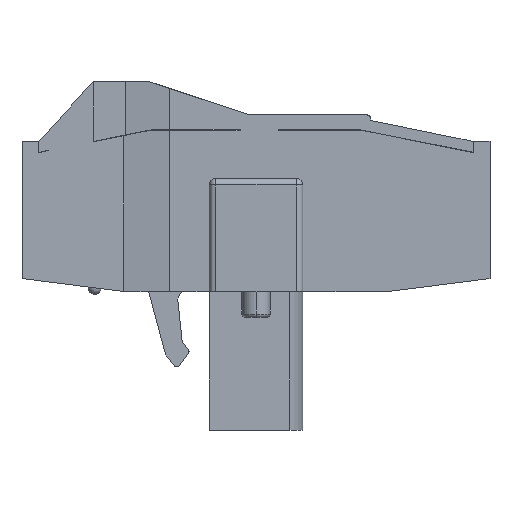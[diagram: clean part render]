
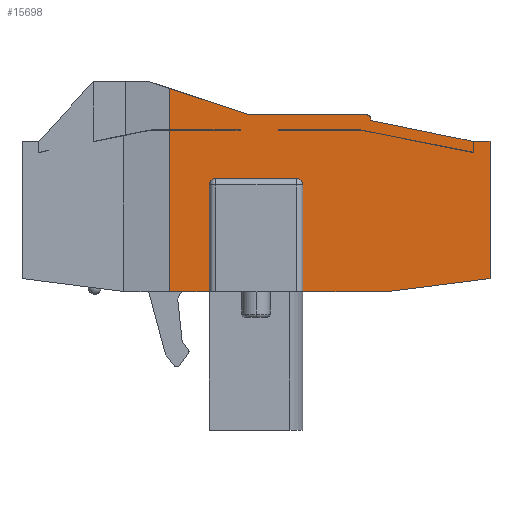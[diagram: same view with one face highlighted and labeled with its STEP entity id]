
A CAD part, left-side view. The second image highlights one B-rep face of the part: STEP entity #15698.
In plain terms, the highlighted planar face has unit normal (-1, 0, 0).
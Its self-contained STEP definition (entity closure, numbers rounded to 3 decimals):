
#1361=DIRECTION('',(0.,0.4,0.917));
#1362=VECTOR('',#1361,0.022);
#1363=CARTESIAN_POINT('',(14.2,13.083,-3.));
#1364=LINE('',#1363,#1362);
#1365=DIRECTION('',(0.,-1.,0.));
#1366=VECTOR('',#1365,5.083);
#1367=CARTESIAN_POINT('',(14.2,13.083,-3.));
#1368=LINE('',#1367,#1366);
#1369=DIRECTION('',(0.,-0.981,-0.196));
#1370=VECTOR('',#1369,7.139);
#1371=CARTESIAN_POINT('',(14.2,8.,-3.));
#1372=LINE('',#1371,#1370);
#1373=DIRECTION('',(0.,0.,1.));
#1374=VECTOR('',#1373,0.7);
#1375=CARTESIAN_POINT('',(14.2,1.,-4.4));
#1376=LINE('',#1375,#1374);
#1377=DIRECTION('',(0.,-1.,0.));
#1378=VECTOR('',#1377,1.);
#1379=CARTESIAN_POINT('',(14.2,1.,-3.7));
#1380=LINE('',#1379,#1378);
#1381=DIRECTION('',(0.,0.,-1.));
#1382=VECTOR('',#1381,8.5);
#1383=CARTESIAN_POINT('',(14.2,0.,-3.7));
#1384=LINE('',#1383,#1382);
#1385=DIRECTION('',(0.,0.992,-0.126));
#1386=VECTOR('',#1385,6.351);
#1387=CARTESIAN_POINT('',(14.2,0.,-12.2));
#1388=LINE('',#1387,#1386);
#1389=DIRECTION('',(0.,1.,0.));
#1390=VECTOR('',#1389,5.3);
#1391=CARTESIAN_POINT('',(14.2,6.3,-13.));
#1392=LINE('',#1391,#1390);
#1393=DIRECTION('',(0.,0.,1.));
#1394=VECTOR('',#1393,6.6);
#1395=CARTESIAN_POINT('',(14.2,11.6,-13.));
#1396=LINE('',#1395,#1394);
#1397=CARTESIAN_POINT('',(14.2,12.,-6.4));
#1398=DIRECTION('',(-1.,0.,0.));
#1399=DIRECTION('',(0.,-1.,0.));
#1400=AXIS2_PLACEMENT_3D('',#1397,#1398,#1399);
#1402=DIRECTION('',(0.,1.,0.));
#1403=VECTOR('',#1402,5.);
#1404=CARTESIAN_POINT('',(14.2,12.,-6.));
#1405=LINE('',#1404,#1403);
#1406=CARTESIAN_POINT('',(14.2,17.,-6.4));
#1407=DIRECTION('',(-1.,0.,0.));
#1408=DIRECTION('',(0.,0.,1.));
#1409=AXIS2_PLACEMENT_3D('',#1406,#1407,#1408);
#1411=DIRECTION('',(0.,0.,-1.));
#1412=VECTOR('',#1411,6.6);
#1413=CARTESIAN_POINT('',(14.2,17.4,-6.4));
#1414=LINE('',#1413,#1412);
#1415=DIRECTION('',(0.,1.,0.));
#1416=VECTOR('',#1415,2.454);
#1417=CARTESIAN_POINT('',(14.2,17.4,-13.));
#1418=LINE('',#1417,#1416);
#1419=DIRECTION('',(0.,0.,1.));
#1420=VECTOR('',#1419,10.);
#1421=CARTESIAN_POINT('',(14.2,19.854,-13.));
#1422=LINE('',#1421,#1420);
#1423=DIRECTION('',(0.,-1.,0.));
#1424=VECTOR('',#1423,4.364);
#1425=CARTESIAN_POINT('',(14.2,19.854,-3.));
#1426=LINE('',#1425,#1424);
#1427=DIRECTION('',(0.,0.562,-0.827));
#1428=VECTOR('',#1427,0.024);
#1429=CARTESIAN_POINT('',(14.2,15.476,-2.98));
#1430=LINE('',#1429,#1428);
#1431=DIRECTION('',(0.,1.,0.));
#1432=VECTOR('',#1431,4.377);
#1433=CARTESIAN_POINT('',(14.2,15.476,-2.98));
#1434=LINE('',#1433,#1432);
#1435=DIRECTION('',(0.,0.,1.));
#1436=VECTOR('',#1435,2.568);
#1437=CARTESIAN_POINT('',(14.2,19.854,-2.98));
#1438=LINE('',#1437,#1436);
#1439=DIRECTION('',(0.,-0.949,-0.314));
#1440=VECTOR('',#1439,5.218);
#1441=CARTESIAN_POINT('',(14.2,19.854,-0.412));
#1442=LINE('',#1441,#1440);
#1443=DIRECTION('',(0.,-1.,0.));
#1444=VECTOR('',#1443,7.25);
#1445=CARTESIAN_POINT('',(14.2,14.9,-2.05));
#1446=LINE('',#1445,#1444);
#1447=CARTESIAN_POINT('',(14.2,7.65,-2.3));
#1448=DIRECTION('',(1.,0.,0.));
#1449=DIRECTION('',(0.,0.,1.));
#1450=AXIS2_PLACEMENT_3D('',#1447,#1448,#1449);
#1452=DIRECTION('',(0.,0.,-1.));
#1453=VECTOR('',#1452,0.097);
#1454=CARTESIAN_POINT('',(14.2,7.4,-2.3));
#1455=LINE('',#1454,#1453);
#1456=DIRECTION('',(0.,-0.98,-0.201));
#1457=VECTOR('',#1456,6.482);
#1458=CARTESIAN_POINT('',(14.2,7.4,-2.397));
#1459=LINE('',#1458,#1457);
#1460=DIRECTION('',(0.,0.,-1.));
#1461=VECTOR('',#1460,0.67);
#1462=CARTESIAN_POINT('',(14.2,1.05,-3.7));
#1463=LINE('',#1462,#1461);
#1464=DIRECTION('',(0.,0.981,0.196));
#1465=VECTOR('',#1464,7.088);
#1466=CARTESIAN_POINT('',(14.2,1.05,-4.37));
#1467=LINE('',#1466,#1465);
#1468=DIRECTION('',(0.,1.,0.));
#1469=VECTOR('',#1468,5.092);
#1470=CARTESIAN_POINT('',(14.2,8.,-2.98));
#1471=LINE('',#1470,#1469);
#11733=CARTESIAN_POINT('',(14.2,19.854,-13.));
#11734=VERTEX_POINT('',#11733);
#11735=CARTESIAN_POINT('',(14.2,17.4,-13.));
#11736=VERTEX_POINT('',#11735);
#11745=CARTESIAN_POINT('',(14.2,11.6,-13.));
#11746=VERTEX_POINT('',#11745);
#11747=CARTESIAN_POINT('',(14.2,6.3,-13.));
#11748=VERTEX_POINT('',#11747);
#12287=CARTESIAN_POINT('',(14.2,1.,-3.7));
#12288=VERTEX_POINT('',#12287);
#12289=CARTESIAN_POINT('',(14.2,1.,-4.4));
#12290=VERTEX_POINT('',#12289);
#12301=CARTESIAN_POINT('',(14.2,1.05,-4.37));
#12303=VERTEX_POINT('',#12301);
#12305=CARTESIAN_POINT('',(14.2,1.05,-3.7));
#12306=VERTEX_POINT('',#12305);
#12411=CARTESIAN_POINT('',(14.2,14.9,-2.05));
#12412=VERTEX_POINT('',#12411);
#12413=CARTESIAN_POINT('',(14.2,19.854,-0.412));
#12414=VERTEX_POINT('',#12413);
#12425=CARTESIAN_POINT('',(14.2,7.65,-2.05));
#12427=VERTEX_POINT('',#12425);
#12458=CARTESIAN_POINT('',(14.2,7.4,-2.3));
#12460=VERTEX_POINT('',#12458);
#12461=CARTESIAN_POINT('',(14.2,7.4,-2.397));
#12463=VERTEX_POINT('',#12461);
#12465=CARTESIAN_POINT('',(14.2,8.,-2.98));
#12466=VERTEX_POINT('',#12465);
#12467=CARTESIAN_POINT('',(14.2,19.854,-2.98));
#12468=VERTEX_POINT('',#12467);
#12531=CARTESIAN_POINT('',(14.2,8.,-3.));
#12532=VERTEX_POINT('',#12531);
#12533=CARTESIAN_POINT('',(14.2,19.854,-3.));
#12534=VERTEX_POINT('',#12533);
#12535=CARTESIAN_POINT('',(14.2,11.6,-6.4));
#12536=VERTEX_POINT('',#12535);
#12537=CARTESIAN_POINT('',(14.2,12.,-6.));
#12538=VERTEX_POINT('',#12537);
#12539=CARTESIAN_POINT('',(14.2,17.,-6.));
#12540=VERTEX_POINT('',#12539);
#12541=CARTESIAN_POINT('',(14.2,17.4,-6.4));
#12542=VERTEX_POINT('',#12541);
#12543=CARTESIAN_POINT('',(14.2,0.,-3.7));
#12544=VERTEX_POINT('',#12543);
#12545=CARTESIAN_POINT('',(14.2,0.,-12.2));
#12546=VERTEX_POINT('',#12545);
#13795=CARTESIAN_POINT('',(14.2,13.092,-2.98));
#13796=VERTEX_POINT('',#13795);
#13797=CARTESIAN_POINT('',(14.2,15.476,-2.98));
#13798=VERTEX_POINT('',#13797);
#13799=CARTESIAN_POINT('',(14.2,13.083,-3.));
#13800=VERTEX_POINT('',#13799);
#13801=CARTESIAN_POINT('',(14.2,15.49,-3.));
#13802=VERTEX_POINT('',#13801);
#15642=CARTESIAN_POINT('',(14.2,10.452,-2.391));
#15643=DIRECTION('',(1.,0.,0.));
#15644=DIRECTION('',(0.,1.,0.));
#15645=AXIS2_PLACEMENT_3D('',#15642,#15643,#15644);
#15646=PLANE('',#15645);
#15648=ORIENTED_EDGE('',*,*,#15647,.F.);
#15650=ORIENTED_EDGE('',*,*,#15649,.T.);
#15652=ORIENTED_EDGE('',*,*,#15651,.T.);
#15653=ORIENTED_EDGE('',*,*,#15310,.T.);
#15655=ORIENTED_EDGE('',*,*,#15654,.T.);
#15656=ORIENTED_EDGE('',*,*,#15543,.T.);
#15657=ORIENTED_EDGE('',*,*,#15624,.T.);
#15658=ORIENTED_EDGE('',*,*,#14410,.T.);
#15660=ORIENTED_EDGE('',*,*,#15659,.T.);
#15662=ORIENTED_EDGE('',*,*,#15661,.T.);
#15664=ORIENTED_EDGE('',*,*,#15663,.T.);
#15666=ORIENTED_EDGE('',*,*,#15665,.T.);
#15668=ORIENTED_EDGE('',*,*,#15667,.T.);
#15669=ORIENTED_EDGE('',*,*,#14398,.T.);
#15671=ORIENTED_EDGE('',*,*,#15670,.T.);
#15673=ORIENTED_EDGE('',*,*,#15672,.T.);
#15675=ORIENTED_EDGE('',*,*,#15674,.F.);
#15677=ORIENTED_EDGE('',*,*,#15676,.T.);
#15679=ORIENTED_EDGE('',*,*,#15678,.T.);
#15681=ORIENTED_EDGE('',*,*,#15680,.T.);
#15683=ORIENTED_EDGE('',*,*,#15682,.T.);
#15685=ORIENTED_EDGE('',*,*,#15684,.T.);
#15687=ORIENTED_EDGE('',*,*,#15686,.T.);
#15689=ORIENTED_EDGE('',*,*,#15688,.T.);
#15691=ORIENTED_EDGE('',*,*,#15690,.T.);
#15693=ORIENTED_EDGE('',*,*,#15692,.T.);
#15695=ORIENTED_EDGE('',*,*,#15694,.T.);
#15696=EDGE_LOOP('',(#15648,#15650,#15652,#15653,#15655,#15656,#15657,#15658,
#15660,#15662,#15664,#15666,#15668,#15669,#15671,#15673,#15675,#15677,#15679,
#15681,#15683,#15685,#15687,#15689,#15691,#15693,#15695));
#15697=FACE_OUTER_BOUND('',#15696,.F.);
#15698=ADVANCED_FACE('',(#15697),#15646,.F.);
#1401=CIRCLE('',#1400,0.4);
#1410=CIRCLE('',#1409,0.4);
#1451=CIRCLE('',#1450,0.25);
#14398=EDGE_CURVE('',#11736,#11734,#1418,.T.);
#14410=EDGE_CURVE('',#11748,#11746,#1392,.T.);
#15310=EDGE_CURVE('',#12290,#12288,#1376,.T.);
#15543=EDGE_CURVE('',#12544,#12546,#1384,.T.);
#15624=EDGE_CURVE('',#12546,#11748,#1388,.T.);
#15647=EDGE_CURVE('',#13800,#13796,#1364,.T.);
#15649=EDGE_CURVE('',#13800,#12532,#1368,.T.);
#15651=EDGE_CURVE('',#12532,#12290,#1372,.T.);
#15654=EDGE_CURVE('',#12288,#12544,#1380,.T.);
#15659=EDGE_CURVE('',#11746,#12536,#1396,.T.);
#15661=EDGE_CURVE('',#12536,#12538,#1401,.T.);
#15663=EDGE_CURVE('',#12538,#12540,#1405,.T.);
#15665=EDGE_CURVE('',#12540,#12542,#1410,.T.);
#15667=EDGE_CURVE('',#12542,#11736,#1414,.T.);
#15670=EDGE_CURVE('',#11734,#12534,#1422,.T.);
#15672=EDGE_CURVE('',#12534,#13802,#1426,.T.);
#15674=EDGE_CURVE('',#13798,#13802,#1430,.T.);
#15676=EDGE_CURVE('',#13798,#12468,#1434,.T.);
#15678=EDGE_CURVE('',#12468,#12414,#1438,.T.);
#15680=EDGE_CURVE('',#12414,#12412,#1442,.T.);
#15682=EDGE_CURVE('',#12412,#12427,#1446,.T.);
#15684=EDGE_CURVE('',#12427,#12460,#1451,.T.);
#15686=EDGE_CURVE('',#12460,#12463,#1455,.T.);
#15688=EDGE_CURVE('',#12463,#12306,#1459,.T.);
#15690=EDGE_CURVE('',#12306,#12303,#1463,.T.);
#15692=EDGE_CURVE('',#12303,#12466,#1467,.T.);
#15694=EDGE_CURVE('',#12466,#13796,#1471,.T.);
